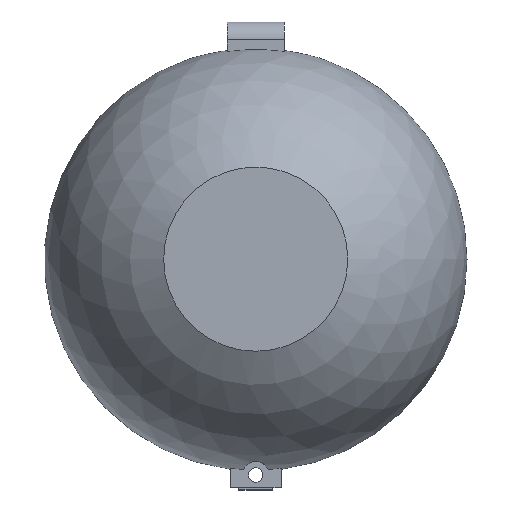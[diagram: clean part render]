
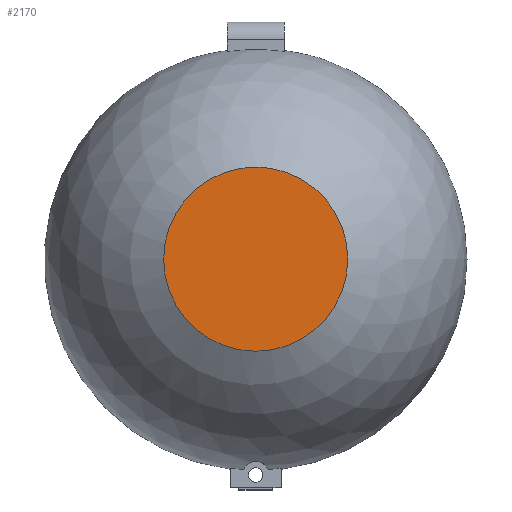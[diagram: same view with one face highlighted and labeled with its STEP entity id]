
A CAD part, top view. The second image highlights one B-rep face of the part: STEP entity #2170.
In plain terms, the highlighted planar face has unit normal (0, 0, 1).
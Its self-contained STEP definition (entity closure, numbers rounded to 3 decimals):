
#73 = SPHERICAL_SURFACE('',#74,50.);
#74 = AXIS2_PLACEMENT_3D('',#75,#76,#77);
#75 = CARTESIAN_POINT('',(0.,0.,0.6));
#76 = DIRECTION('',(0.,0.,1.));
#77 = DIRECTION('',(1.,0.,0.));
#711 = VERTEX_POINT('',#712);
#712 = CARTESIAN_POINT('',(21.794,0.,45.6));
#734 = EDGE_CURVE('',#711,#711,#735,.T.);
#735 = SURFACE_CURVE('',#736,(#741,#748),.PCURVE_S1.);
#736 = CIRCLE('',#737,21.794);
#737 = AXIS2_PLACEMENT_3D('',#738,#739,#740);
#738 = CARTESIAN_POINT('',(0.,0.,45.6));
#739 = DIRECTION('',(0.,0.,1.));
#740 = DIRECTION('',(1.,0.,-0.));
#741 = PCURVE('',#73,#742);
#742 = DEFINITIONAL_REPRESENTATION('',(#743),#747);
#743 = LINE('',#744,#745);
#744 = CARTESIAN_POINT('',(0.,1.12));
#745 = VECTOR('',#746,1.);
#746 = DIRECTION('',(1.,0.));
#747 = ( GEOMETRIC_REPRESENTATION_CONTEXT(2) 
PARAMETRIC_REPRESENTATION_CONTEXT() REPRESENTATION_CONTEXT('2D SPACE',''
  ) );
#748 = PCURVE('',#749,#754);
#749 = PLANE('',#750);
#750 = AXIS2_PLACEMENT_3D('',#751,#752,#753);
#751 = CARTESIAN_POINT('',(-65.,-65.,45.6));
#752 = DIRECTION('',(0.,0.,1.));
#753 = DIRECTION('',(1.,0.,0.));
#754 = DEFINITIONAL_REPRESENTATION('',(#755),#759);
#755 = CIRCLE('',#756,21.794);
#756 = AXIS2_PLACEMENT_2D('',#757,#758);
#757 = CARTESIAN_POINT('',(65.,65.));
#758 = DIRECTION('',(1.,0.));
#759 = ( GEOMETRIC_REPRESENTATION_CONTEXT(2) 
PARAMETRIC_REPRESENTATION_CONTEXT() REPRESENTATION_CONTEXT('2D SPACE',''
  ) );
#2170 = ADVANCED_FACE('',(#2171),#749,.T.);
#2171 = FACE_BOUND('',#2172,.T.);
#2172 = EDGE_LOOP('',(#2173));
#2173 = ORIENTED_EDGE('',*,*,#734,.T.);
